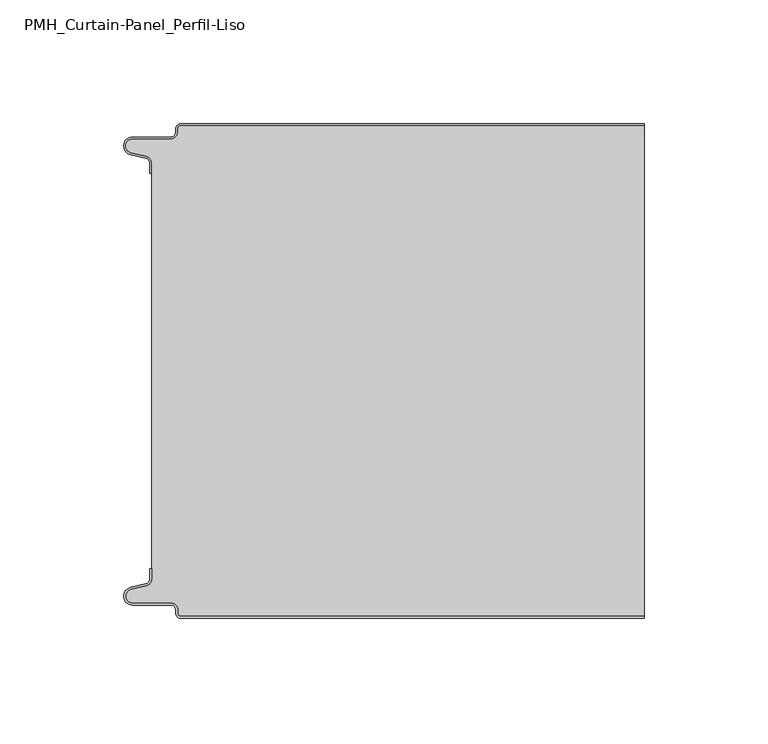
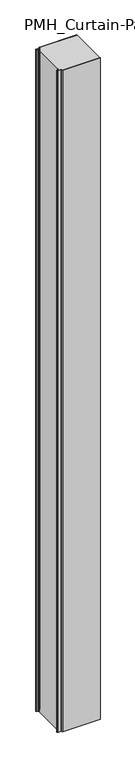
"""IFC4 building model written with IfcOpenShell, lengths in millimetres: plate geometry, PMH_Curtain-Panel_Perfil-Liso : ACH_PMH_Panel-Acústico-Sectorización_200M."""

import ifcopenshell
import ifcopenshell.guid

model = None  # the IFC model being written
_history = None  # IfcOwnerHistory: only IFC2X3 demands one
_inside = {}  # id of a spatial element -> (the spatial element, [elements in it])
_under = {}  # id of a project, library or spatial element -> (it, [spatial elements below it])
_declared = {}  # id of a project -> (the project, [libraries it declares])
_typed = {}  # id of a type object -> (the type object, [elements of that type])
_made_of = {}  # id of a material, layer set ... -> (it, [elements and type objects made of it])


def new_model(schema):
    """Start an empty IFC model of exactly this schema.

    Asked for "IFC4X3", IfcOpenShell would pick the latest addendum, in which some entities
    have other attributes; the version numbers below select the first issue.
    IFC2X3 requires an IfcOwnerHistory on every rooted entity: one is made here for all.
    """
    global model, _history
    if schema == "IFC4X3":
        model = ifcopenshell.file(schema_version=(4, 3, 0, 0))
    else:
        model = ifcopenshell.file(schema=schema)
    _inside.clear()
    _under.clear()
    _declared.clear()
    _typed.clear()
    _made_of.clear()
    _history = None
    if model.schema == "IFC2X3":
        org = make("IfcOrganization", Name="unknown")
        user = make(
            "IfcPersonAndOrganization",
            ThePerson=make("IfcPerson", FamilyName="unknown"),
            TheOrganization=org,
        )
        app = make(
            "IfcApplication",
            ApplicationDeveloper=org,
            Version="unknown",
            ApplicationFullName="unknown",
            ApplicationIdentifier="unknown",
        )
        _history = make(
            "IfcOwnerHistory",
            OwningUser=user,
            OwningApplication=app,
            ChangeAction="ADDED",
            CreationDate=0,
        )
    return model


def make(cls, **values):
    """One entity of the class cls with the attributes given. An attribute that is None is left unset."""
    return model.create_entity(
        cls, **{name: value for name, value in values.items() if value is not None}
    )


def rooted(cls, **values):
    """An entity with a GlobalId (a new one), such as an element, a storey or a relation."""
    return make(cls, GlobalId=ifcopenshell.guid.new(), OwnerHistory=_history, **values)


def si_unit(unit_type, name, prefix=None):
    """IfcSIUnit, for example si_unit("LENGTHUNIT", "METRE", prefix="MILLI")."""
    return make("IfcSIUnit", UnitType=unit_type, Prefix=prefix, Name=name)


def assignment(units):
    """IfcUnitAssignment: the units of a project."""
    return None if units is None else make("IfcUnitAssignment", Units=units)


def point(xyz):
    """IfcCartesianPoint."""
    return None if xyz is None else make("IfcCartesianPoint", Coordinates=xyz)


def direction(xyz):
    """IfcDirection."""
    return None if xyz is None else make("IfcDirection", DirectionRatios=xyz)


def frame(location, z_axis=None, x_axis=None):
    """IfcAxis2Placement3D, a coordinate frame: its origin and axes. An axis left out is left unset."""
    return make(
        "IfcAxis2Placement3D",
        Location=point(location),
        Axis=direction(z_axis),
        RefDirection=direction(x_axis),
    )


def frame_2d(location, x_axis=None):
    """IfcAxis2Placement2D, a coordinate frame in the plane: its origin and x axis."""
    return make(
        "IfcAxis2Placement2D", Location=point(location), RefDirection=direction(x_axis)
    )


def origin():
    """The frame at (0, 0, 0) with its axes left unset."""
    return frame((0.0, 0.0, 0.0))


def origin_with_axes():
    """The frame at (0, 0, 0) with the z axis (0, 0, 1) and the x axis (1, 0, 0) written out."""
    return frame((0.0, 0.0, 0.0), z_axis=(0.0, 0.0, 1.0), x_axis=(1.0, 0.0, 0.0))


def place(relative_to, where):
    """IfcLocalPlacement: puts the frame where relative to a parent placement (None: the world)."""
    return make(
        "IfcLocalPlacement", PlacementRelTo=relative_to, RelativePlacement=where
    )


def context(
    kind, dimensions, precision=None, world=None, true_north=None, identifier=None
):
    """IfcGeometricRepresentationContext, for example the 3D "Model" context."""
    return make(
        "IfcGeometricRepresentationContext",
        ContextIdentifier=identifier,
        ContextType=kind,
        CoordinateSpaceDimension=dimensions,
        Precision=precision,
        WorldCoordinateSystem=world,
        TrueNorth=true_north,
    )


def project(units=None, contexts=None):
    """IfcProject with its units and contexts."""
    return rooted(
        "IfcProject",
        Name="project",
        RepresentationContexts=contexts,
        UnitsInContext=assignment(units),
    )


def spatial(cls, under=None, at=None, **own):
    """A site, building, storey or space (cls), placed at a placement, below another one or the project."""
    s = rooted(cls, ObjectPlacement=at, **own)
    if under is not None:
        _under.setdefault(under.id(), (under, []))[1].append(s)
    return s


def polyline(points):
    """IfcPolyline through the points."""
    return make("IfcPolyline", Points=[point(p) for p in points])


def circle_curve(where, radius):
    """IfcCircle in the frame where."""
    return make("IfcCircle", Position=where, Radius=radius)


def trimmed(basis, trim1, trim2, sense, master):
    """IfcTrimmedCurve: the piece of a basis curve between two trims."""
    return make(
        "IfcTrimmedCurve",
        BasisCurve=basis,
        Trim1=trim1,
        Trim2=trim2,
        SenseAgreement=sense,
        MasterRepresentation=master,
    )


def segment(curve, same_sense, transition):
    """IfcCompositeCurveSegment."""
    return make(
        "IfcCompositeCurveSegment",
        Transition=transition,
        SameSense=same_sense,
        ParentCurve=curve,
    )


def composite_curve(segments, self_intersect=None):
    """IfcCompositeCurve: segments joined end to end."""
    return make("IfcCompositeCurve", Segments=segments, SelfIntersect=self_intersect)


def outline(outer, holes=None, kind="AREA"):
    """IfcArbitraryClosedProfileDef: a profile drawn as a closed curve; with holes, ...WithVoids."""
    if holes is None:
        return make("IfcArbitraryClosedProfileDef", ProfileType=kind, OuterCurve=outer)
    return make(
        "IfcArbitraryProfileDefWithVoids",
        ProfileType=kind,
        OuterCurve=outer,
        InnerCurves=holes,
    )


def extrude(swept, where, along, depth):
    """IfcExtrudedAreaSolid: the profile swept, set in the frame where, extruded along a direction by depth."""
    return make(
        "IfcExtrudedAreaSolid",
        SweptArea=swept,
        Position=where,
        ExtrudedDirection=direction(along),
        Depth=depth,
    )


def shape(context_of_items, identifier, shape_type, items):
    """IfcShapeRepresentation: the items that make up one representation, for example the "Body"."""
    return make(
        "IfcShapeRepresentation",
        ContextOfItems=context_of_items,
        RepresentationIdentifier=identifier,
        RepresentationType=shape_type,
        Items=items,
    )


def source(mapping_origin, context_of_items, identifier, shape_type, items):
    """IfcRepresentationMap: a shape defined once, which mapped items show again and again."""
    return make(
        "IfcRepresentationMap",
        MappingOrigin=mapping_origin,
        MappedRepresentation=shape(context_of_items, identifier, shape_type, items),
    )


def transform(
    local_origin,
    x_axis=None,
    y_axis=None,
    z_axis=None,
    scale=None,
    scale2=None,
    scale3=None,
    uniform=True,
):
    """IfcCartesianTransformationOperator3D, or its non-uniform kind. x_axis, y_axis, z_axis: its Axis1, 2, 3."""
    if uniform:
        return make(
            "IfcCartesianTransformationOperator3D",
            Axis1=direction(x_axis),
            Axis2=direction(y_axis),
            LocalOrigin=point(local_origin),
            Scale=scale,
            Axis3=direction(z_axis),
        )
    return make(
        "IfcCartesianTransformationOperator3DnonUniform",
        Axis1=direction(x_axis),
        Axis2=direction(y_axis),
        LocalOrigin=point(local_origin),
        Scale=scale,
        Axis3=direction(z_axis),
        Scale2=scale2,
        Scale3=scale3,
    )


def mapped(mapping_source, mapping_target):
    """IfcMappedItem: shows the shape of a source again, moved by a transform."""
    return make(
        "IfcMappedItem", MappingSource=mapping_source, MappingTarget=mapping_target
    )


def made_of(thing, what):
    """Note that an element or type object is made of a material, layer set ...; save() writes the relation."""
    if what is not None:
        _made_of.setdefault(what.id(), (what, []))[1].append(thing)
    return thing


def element(
    cls,
    number,
    at=None,
    inside=None,
    cuts=None,
    type_object=None,
    material=None,
    context=None,
    identifier="Body",
    shape_type=None,
    held_by="IfcProductDefinitionShape",
    body=None,
    shapes=None,
    **own,
):
    """One element of the class cls, such as IfcWall. Its Tag is "e" and its number.

    at: its placement. inside: the storey or other place that contains it. cuts: it is an
    opening in that element (IfcRelVoidsElement). A single representation is given by context,
    identifier, shape_type and body (its items); several are given by shapes. held_by: the class
    of the entity that holds the representations. save() writes the other relations.
    """
    e = rooted(cls, Tag="e%d" % number, ObjectPlacement=at, **own)
    if body is not None:
        shapes = [shape(context, identifier, shape_type, body)]
    if shapes is not None:
        e.Representation = make(held_by, Representations=shapes)
    if inside is not None:
        _inside.setdefault(inside.id(), (inside, []))[1].append(e)
    if cuts is not None:
        rooted(
            "IfcRelVoidsElement", RelatingBuildingElement=cuts, RelatedOpeningElement=e
        )
    if type_object is not None:
        _typed.setdefault(type_object.id(), (type_object, []))[1].append(e)
    return made_of(e, material)


def aggregate(whole, parts):
    """IfcRelAggregates: a whole, such as a stair, and the parts it consists of."""
    return rooted("IfcRelAggregates", RelatingObject=whole, RelatedObjects=parts)


def save(model, path):
    """Write the relations noted so far, then the file.

    IfcRelAggregates (storeys below a building ...), IfcRelContainedInSpatialStructure (elements
    in a storey), IfcRelDefinesByType, IfcRelAssociatesMaterial and IfcRelDeclares: one each for
    every whole, place, type object, material and project.
    """
    for whole, parts in _under.values():
        aggregate(whole, parts)
    for where, things in _inside.values():
        rooted(
            "IfcRelContainedInSpatialStructure",
            RelatedElements=things,
            RelatingStructure=where,
        )
    for kind, things in _typed.values():
        rooted("IfcRelDefinesByType", RelatedObjects=things, RelatingType=kind)
    for what, things in _made_of.values():
        rooted("IfcRelAssociatesMaterial", RelatedObjects=things, RelatingMaterial=what)
    for by, libraries in _declared.values():
        rooted("IfcRelDeclares", RelatingContext=by, RelatedDefinitions=libraries)
    model.write(path)


def pmh_curtain_panel_perfil_liso_27409d0f(model_context):
    return source(origin(), model_context, "Body", "SweptSolid", [
        extrude(outline(composite_curve([segment(polyline([(-87.4, 0.8), (100.0, 0.8), (100.0, 0.0), (-87.4, 0.0)]), True, "CONTINUOUS"), segment(trimmed(circle_curve(frame_2d((-87.4, 2.0)), 2.0), [point((-87.4, 0.0))], [point((-89.4, 2.0))], False, "CARTESIAN"), True, "CONTINUOUS"), segment(polyline([(-89.4, 2.0), (-89.4, 3.4)]), True, "CONTINUOUS"), segment(trimmed(circle_curve(frame_2d((-91.4, 3.4)), 2.0), [point((-89.4, 3.4))], [point((-91.4, 5.4))], True, "CARTESIAN"), True, "CONTINUOUS"), segment(polyline([(-91.4, 5.4), (-106.9, 5.4)]), True, "CONTINUOUS"), segment(trimmed(circle_curve(frame_2d((-106.9, 9.0)), 3.6), [point((-106.9, 5.4))], [point((-107.7098239, 12.5077322))], False, "CARTESIAN"), True, "CONTINUOUS"), segment(polyline([(-107.7098239, 12.5077322), (-101.5500979, 13.929817)]), True, "CONTINUOUS"), segment(trimmed(circle_curve(frame_2d((-102.0, 15.878557)), 2.0), [point((-101.5500979, 13.929817))], [point((-100.0, 15.878557))], True, "CARTESIAN"), True, "CONTINUOUS"), segment(polyline([(-100.0, 15.878557), (-100.0, 20.0), (-99.2, 20.0), (-99.2, 15.878557)]), True, "CONTINUOUS"), segment(trimmed(circle_curve(frame_2d((-102.0, 15.878557)), 2.8), [point((-99.2, 15.878557))], [point((-101.370137, 13.1503208))], False, "CARTESIAN"), True, "CONTINUOUS"), segment(polyline([(-101.370137, 13.1503208), (-107.529863, 11.728236)]), True, "CONTINUOUS"), segment(trimmed(circle_curve(frame_2d((-106.9, 9.0)), 2.8), [point((-107.529863, 11.728236))], [point((-106.9, 6.2))], True, "CARTESIAN"), True, "CONTINUOUS"), segment(polyline([(-106.9, 6.2), (-91.4, 6.2)]), True, "CONTINUOUS"), segment(trimmed(circle_curve(frame_2d((-91.4, 3.4)), 2.8), [point((-91.4, 6.2))], [point((-88.6, 3.4))], False, "CARTESIAN"), True, "CONTINUOUS"), segment(polyline([(-88.6, 3.4), (-88.6, 2.0)]), True, "CONTINUOUS"), segment(trimmed(circle_curve(frame_2d((-87.4, 2.0)), 1.2), [point((-88.6, 2.0))], [point((-87.4, 0.8))], True, "CARTESIAN"), True, "CONTINUOUS")], self_intersect=False)), origin_with_axes(), (0.0, 0.0, 1.0), 3500.0),
        extrude(outline(composite_curve([segment(trimmed(circle_curve(frame_2d((-102.0, 184.1214426)), 2.8), [point((-99.2, 184.1214426))], [point((-101.370137, 186.8496788))], True, "CARTESIAN"), True, "CONTINUOUS"), segment(polyline([(-101.370137, 186.8496788), (-107.5298631, 188.2717638)]), True, "CONTINUOUS"), segment(trimmed(circle_curve(frame_2d((-106.9, 191.0)), 2.8), [point((-107.5298631, 188.2717638))], [point((-106.9, 193.8))], False, "CARTESIAN"), True, "CONTINUOUS"), segment(polyline([(-106.9, 193.8), (-91.4000001, 193.8)]), True, "CONTINUOUS"), segment(trimmed(circle_curve(frame_2d((-91.4000001, 196.6)), 2.8), [point((-91.4000001, 193.8))], [point((-88.6000001, 196.6))], True, "CARTESIAN"), True, "CONTINUOUS"), segment(polyline([(-88.6000001, 196.6), (-88.6000001, 198.0)]), True, "CONTINUOUS"), segment(trimmed(circle_curve(frame_2d((-87.4000001, 198.0)), 1.2), [point((-88.6000001, 198.0))], [point((-87.4000001, 199.2))], False, "CARTESIAN"), True, "CONTINUOUS"), segment(polyline([(-87.4000001, 199.2), (100.0, 199.2), (100.0, 0.8), (-87.4000001, 0.8)]), True, "CONTINUOUS"), segment(trimmed(circle_curve(frame_2d((-87.4000001, 2.0)), 1.2), [point((-87.4000001, 0.8))], [point((-88.6000001, 2.0))], False, "CARTESIAN"), True, "CONTINUOUS"), segment(polyline([(-88.6000001, 2.0), (-88.6000001, 3.4)]), True, "CONTINUOUS"), segment(trimmed(circle_curve(frame_2d((-91.4000001, 3.4)), 2.8), [point((-88.6000001, 3.4))], [point((-91.4000001, 6.2))], True, "CARTESIAN"), True, "CONTINUOUS"), segment(polyline([(-91.4000001, 6.2), (-106.9, 6.2)]), True, "CONTINUOUS"), segment(trimmed(circle_curve(frame_2d((-106.9, 9.0)), 2.8), [point((-106.9, 6.2))], [point((-107.5298631, 11.7282362))], False, "CARTESIAN"), True, "CONTINUOUS"), segment(polyline([(-107.5298631, 11.7282362), (-101.370137, 13.1503212)]), True, "CONTINUOUS"), segment(trimmed(circle_curve(frame_2d((-102.0, 15.8785573)), 2.8), [point((-101.370137, 13.1503212))], [point((-99.2, 15.8785573))], True, "CARTESIAN"), True, "CONTINUOUS"), segment(polyline([(-99.2, 15.8785573), (-99.2, 184.1214426)]), True, "CONTINUOUS")], self_intersect=False)), origin_with_axes(), (0.0, 0.0, 1.0), 3500.0),
        extrude(outline(composite_curve([segment(polyline([(-87.4, 200.0), (100.0, 200.0), (100.0, 199.2), (-87.4, 199.2)]), True, "CONTINUOUS"), segment(trimmed(circle_curve(frame_2d((-87.4, 198.0)), 1.2), [point((-87.4, 199.2))], [point((-88.6, 198.0))], True, "CARTESIAN"), True, "CONTINUOUS"), segment(polyline([(-88.6, 198.0), (-88.6, 196.6)]), True, "CONTINUOUS"), segment(trimmed(circle_curve(frame_2d((-91.4, 196.6)), 2.8), [point((-88.6, 196.6))], [point((-91.4, 193.8))], False, "CARTESIAN"), True, "CONTINUOUS"), segment(polyline([(-91.4, 193.8), (-106.9, 193.8)]), True, "CONTINUOUS"), segment(trimmed(circle_curve(frame_2d((-106.9, 191.0)), 2.8), [point((-106.9, 193.8))], [point((-107.529863, 188.2717638))], True, "CARTESIAN"), True, "CONTINUOUS"), segment(polyline([(-107.529863, 188.2717638), (-101.370137, 186.849679)]), True, "CONTINUOUS"), segment(trimmed(circle_curve(frame_2d((-102.0, 184.121443)), 2.8), [point((-101.370137, 186.849679))], [point((-99.2, 184.121443))], False, "CARTESIAN"), True, "CONTINUOUS"), segment(polyline([(-99.2, 184.121443), (-99.2, 180.0), (-100.0, 180.0), (-100.0, 184.121443)]), True, "CONTINUOUS"), segment(trimmed(circle_curve(frame_2d((-102.0, 184.121443)), 2.0), [point((-100.0, 184.121443))], [point((-101.5500978, 186.0701831))], True, "CARTESIAN"), True, "CONTINUOUS"), segment(polyline([(-101.5500978, 186.0701831), (-107.7098239, 187.492268)]), True, "CONTINUOUS"), segment(trimmed(circle_curve(frame_2d((-106.9, 191.0)), 3.6), [point((-107.7098239, 187.492268))], [point((-106.9, 194.6))], False, "CARTESIAN"), True, "CONTINUOUS"), segment(polyline([(-106.9, 194.6), (-91.4, 194.6)]), True, "CONTINUOUS"), segment(trimmed(circle_curve(frame_2d((-91.4, 196.6)), 2.0), [point((-91.4, 194.6))], [point((-89.4, 196.6))], True, "CARTESIAN"), True, "CONTINUOUS"), segment(polyline([(-89.4, 196.6), (-89.4, 198.0)]), True, "CONTINUOUS"), segment(trimmed(circle_curve(frame_2d((-87.4, 198.0)), 2.0), [point((-89.4, 198.0))], [point((-87.4, 200.0))], False, "CARTESIAN"), True, "CONTINUOUS")], self_intersect=False)), origin_with_axes(), (0.0, 0.0, 1.0), 3500.0),
    ])


if __name__ == "__main__":
    model = new_model("IFC4")
    model_context = context("Model", 3, world=origin())
    ifc_project = project(units=[si_unit("LENGTHUNIT", "METRE", prefix="MILLI")], contexts=[model_context])
    site = spatial("IfcSite", under=ifc_project)
    building = spatial("IfcBuilding", under=site)
    placement = place(None, origin())
    pmh_curtain_panel_perfil_liso_shape = pmh_curtain_panel_perfil_liso_27409d0f(model_context)
    element("IfcPlate", 1, ObjectType="PMH_Curtain-Panel_Perfil-Liso : ACH_PMH_Panel-Acústico-Sectorización_200M", at=placement, inside=building, context=model_context, shape_type="MappedRepresentation", body=[
        mapped(pmh_curtain_panel_perfil_liso_shape, transform((0.0, 0.0, 0.0), x_axis=(1.0, 0.0, 0.0), y_axis=(0.0, 1.0, 0.0), z_axis=(0.0, 0.0, 1.0))),
    ])
    save(model, "model.ifc")
